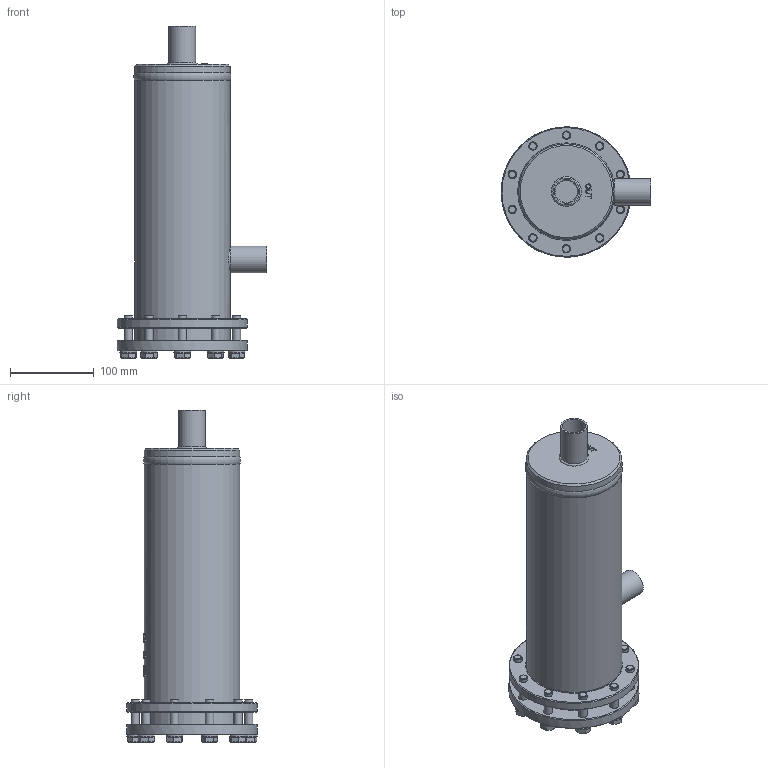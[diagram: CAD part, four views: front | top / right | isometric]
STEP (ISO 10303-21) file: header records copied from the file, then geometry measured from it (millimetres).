
FILE_DESCRIPTION(/* description */ (''),/* implementation_level */ '2;1');
FILE_NAME(/* name */ 'P:\FT\FT2-28-CDM\FT2-28-CDM.stp',/* time_stamp */ '2017-10-05T08:22:00+02:00',/* author */ ('neufeld'),/* organization */ (''),/* preprocessor_version */ 'ST-DEVELOPER v16.1',/* originating_system */ 'Autodesk Inventor 2016',/* authorisation */ '');
FILE_SCHEMA (('AUTOMOTIVE_DESIGN { 1 0 10303 214 3 1 1 }'));
Length unit declared in the file: millimetre
Products named in the file (2): FT2-28-CDM; FT2-28-CDM_1
Assembly tree (1 placements, depth 2):
  FT2-28-CDM_1
    FT2-28-CDM
Bounding box: 179.15 x 156 x 397.4 mm (x, y, z)
Volume: 3809974.4 mm3; surface area: 218004.5 mm2
Topology: 1 solids, 1 shells, 1270 faces, 3281 edges, 2156 vertices
Faces by surface type: plane 721, bspline 295, cylinder 163, cone 87, torus 4
Full cylindrical faces by diameter (mm): 9.188 x10, 10 x20, 10.5 x10, 11 x10, 15.4 x10, 20 x10, 28.7 x2, 32 x2, 114.3 x3, 115.2 x1, 156 x2
Entity records: 43999 total; most frequent: CARTESIAN_POINT 15077, ORIENTED_EDGE 6256, DIRECTION 5362, EDGE_CURVE 3126, VERTEX_POINT 2112, AXIS2_PLACEMENT_3D 1970, EDGE_LOOP 1544, LINE 1422
